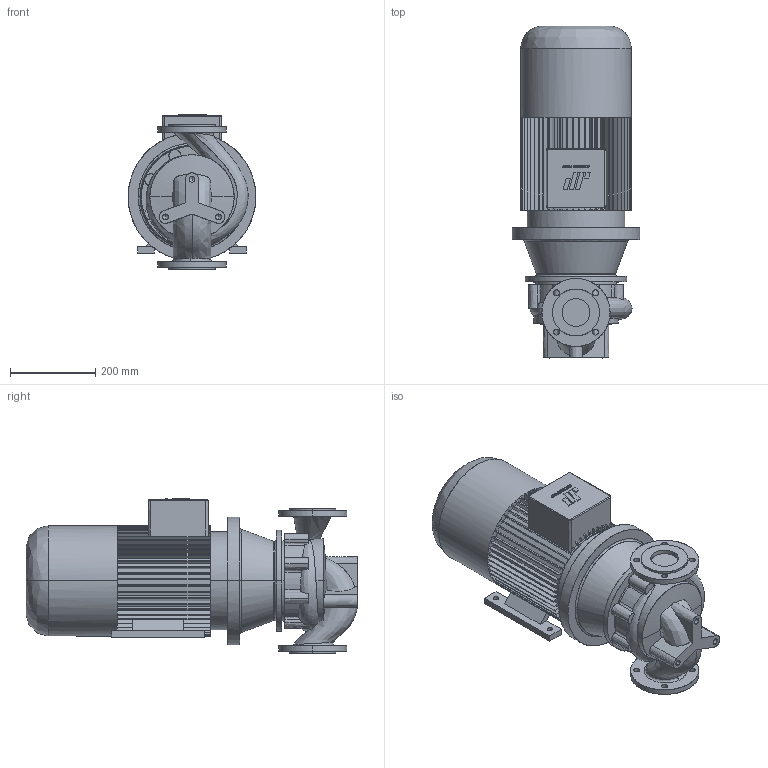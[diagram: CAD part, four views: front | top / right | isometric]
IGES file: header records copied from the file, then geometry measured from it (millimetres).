
Start section: CombiLine
Global section: file name: CLB_65-160_IEC132M.igs; native system:  By UGS Corp.; preprocessor: XPlus GENERIC/IGES 3.0; author: Stageplaats; organization: Johnson Pump Water B.V.; date: 20070713.133401; units: millimetre
Bounding box: 300 x 779.5 x 363 mm (x, y, z)
Surface area: 1249777.1 mm2 (no closed solid volume)
Topology: 0 solids, 0 shells, 581 faces, 3524 edges, 3518 vertices
Faces by surface type: bspline 581
